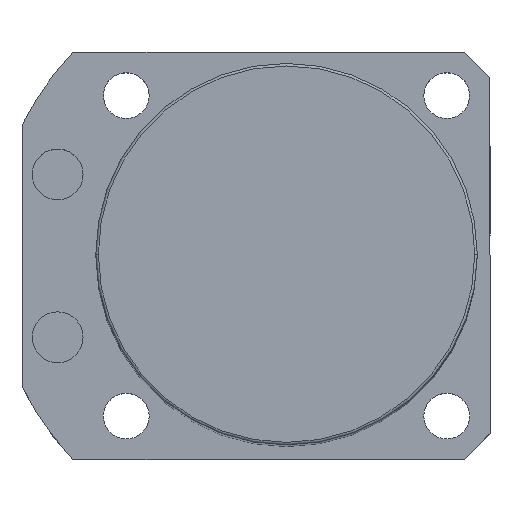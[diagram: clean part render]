
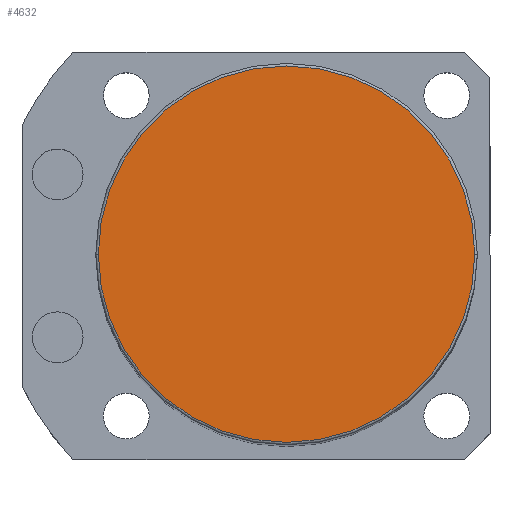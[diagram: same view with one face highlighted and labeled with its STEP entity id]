
A CAD part, top view. The second image highlights one B-rep face of the part: STEP entity #4632.
In plain terms, the highlighted planar face has unit normal (0, 0, 1).
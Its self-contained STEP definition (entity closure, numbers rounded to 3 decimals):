
#121 = DIRECTION ( 'NONE',  ( 0., 0., 1. ) ) ;
#423 = EDGE_CURVE ( 'NONE', #3646, #6047, #730, .T. ) ;
#730 = CIRCLE ( 'NONE', #6493, 37. ) ;
#794 = DIRECTION ( 'NONE',  ( 0., 0., 1. ) ) ;
#864 = DIRECTION ( 'NONE',  ( 1., 0., 0. ) ) ;
#1432 = CIRCLE ( 'NONE', #5933, 37. ) ;
#2382 = PLANE ( 'NONE',  #4518 ) ;
#3211 = FACE_OUTER_BOUND ( 'NONE', #3880, .T. ) ;
#3646 = VERTEX_POINT ( 'NONE', #6563 ) ;
#3880 = EDGE_LOOP ( 'NONE', ( #6235, #5170 ) ) ;
#3999 = CARTESIAN_POINT ( 'NONE',  ( 37., 0., 210.5 ) ) ;
#4477 = DIRECTION ( 'NONE',  ( 0., 0., 1. ) ) ;
#4518 = AXIS2_PLACEMENT_3D ( 'NONE', #6431, #794, #864 ) ;
#4632 = ADVANCED_FACE ( 'NONE', ( #3211 ), #2382, .T. ) ;
#5070 = DIRECTION ( 'NONE',  ( 1., 0., 0. ) ) ;
#5170 = ORIENTED_EDGE ( 'NONE', *, *, #423, .T. ) ;
#5543 = EDGE_CURVE ( 'NONE', #6047, #3646, #1432, .T. ) ;
#5719 = CARTESIAN_POINT ( 'NONE',  ( 0., 0., 210.5 ) ) ;
#5735 = DIRECTION ( 'NONE',  ( 1., 0., 0. ) ) ;
#5933 = AXIS2_PLACEMENT_3D ( 'NONE', #6086, #4477, #5070 ) ;
#6047 = VERTEX_POINT ( 'NONE', #3999 ) ;
#6086 = CARTESIAN_POINT ( 'NONE',  ( 0., 0., 210.5 ) ) ;
#6235 = ORIENTED_EDGE ( 'NONE', *, *, #5543, .T. ) ;
#6431 = CARTESIAN_POINT ( 'NONE',  ( 0., 0., 210.5 ) ) ;
#6493 = AXIS2_PLACEMENT_3D ( 'NONE', #5719, #121, #5735 ) ;
#6563 = CARTESIAN_POINT ( 'NONE',  ( -37., 0., 210.5 ) ) ;
